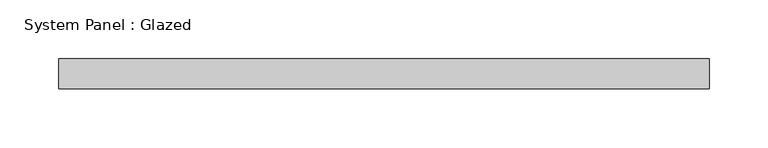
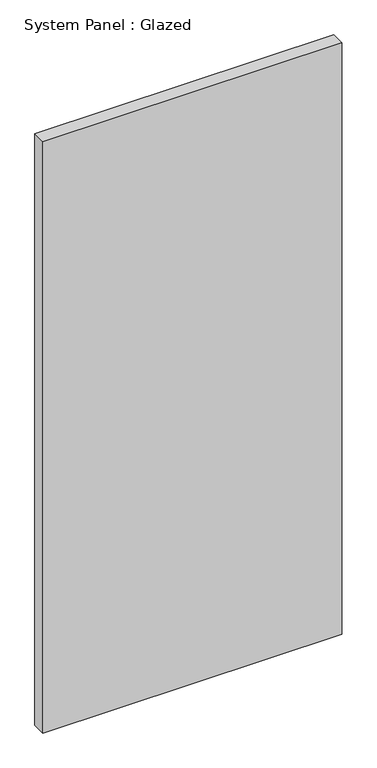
"""IFC4 building model written with IfcOpenShell, lengths in millimetres: plate geometry, System Panel : Glazed."""

from ifc_helpers import new_model, si_unit, origin, origin_with_axes, place, context, project, spatial, polyline, outline, extrude, source, transform, mapped, element, save


def system_panel_glazed_346f81d9(model_context):
    return source(origin(), model_context, "Body", "SweptSolid", [
        extrude(outline(polyline([(276.225, -44.45), (-276.225, -44.45), (-276.225, -19.05), (276.225, -19.05), (276.225, -44.45)])), origin_with_axes(), (0.0, 0.0, 1.0), 1155.7),
    ])


if __name__ == "__main__":
    model = new_model("IFC4")
    model_context = context("Model", 3, world=origin())
    ifc_project = project(units=[si_unit("LENGTHUNIT", "METRE", prefix="MILLI")], contexts=[model_context])
    site = spatial("IfcSite", under=ifc_project)
    building = spatial("IfcBuilding", under=site)
    placement = place(None, origin())
    system_panel_glazed_shape = system_panel_glazed_346f81d9(model_context)
    element("IfcPlate", 1, ObjectType="System Panel : Glazed", at=placement, inside=building, context=model_context, shape_type="MappedRepresentation", body=[
        mapped(system_panel_glazed_shape, transform((0.0, 0.0, 0.0), x_axis=(1.0, 0.0, 0.0), y_axis=(0.0, 1.0, 0.0), z_axis=(0.0, 0.0, 1.0))),
    ])
    save(model, "model.ifc")
